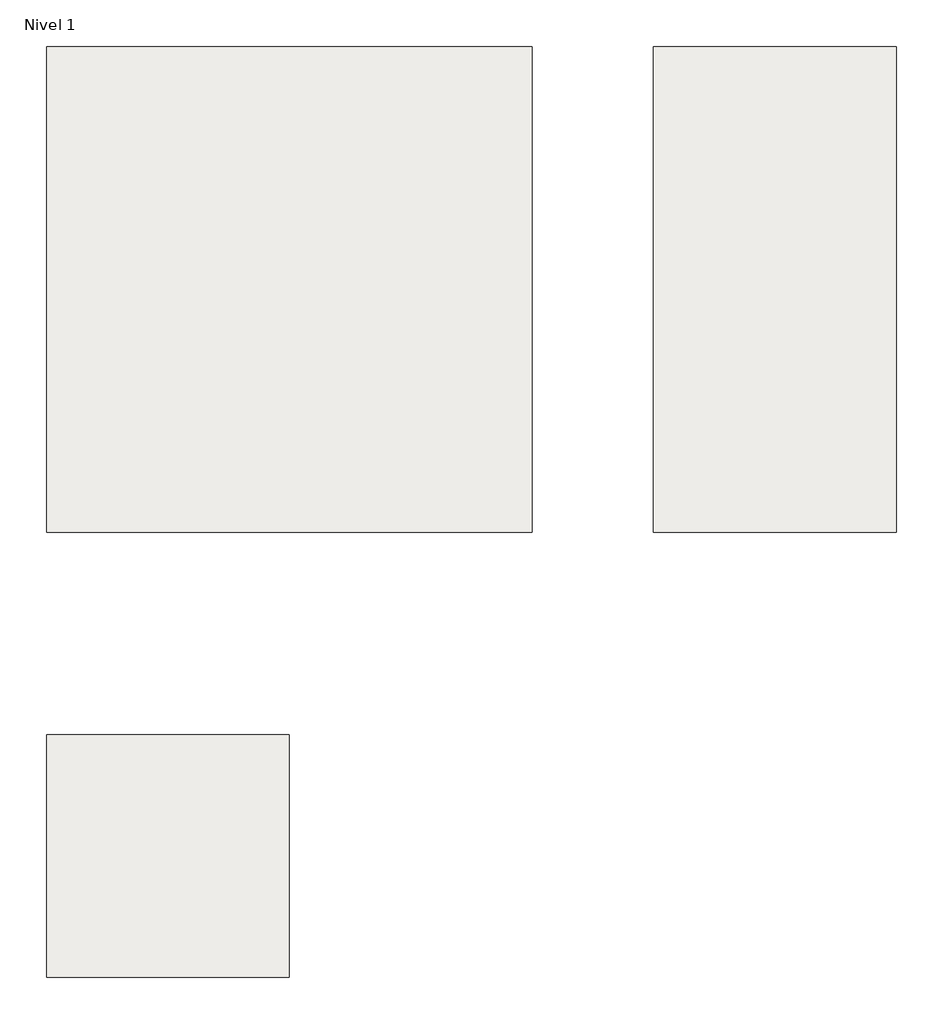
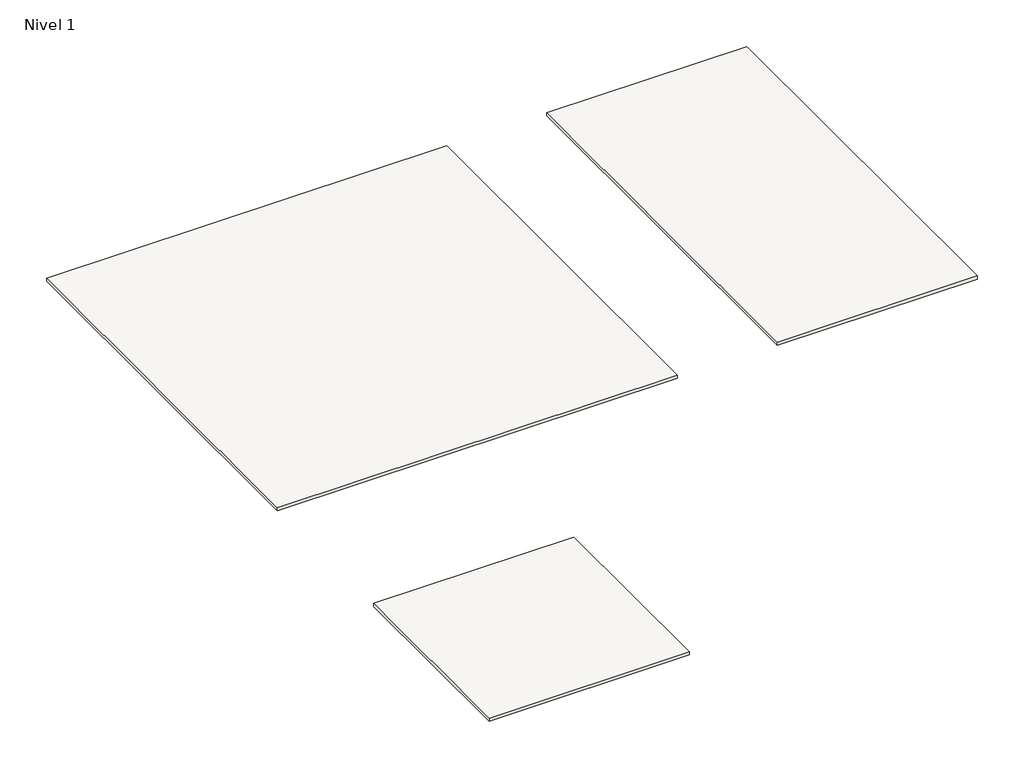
# One storey: 3 slabs.
"""IFC4 building model written with IfcOpenShell, lengths in millimetres."""

from ifc_helpers import new_model, si_unit, frame, origin, place, context, project, spatial, polyline, outline, extrude, element, save

model = new_model("IFC4")

# Units and contexts
model_context = context("Model", 3, world=origin())
ifc_project = project(units=[si_unit("LENGTHUNIT", "METRE", prefix="MILLI")], contexts=[model_context])

# Site, building, storey
site = spatial("IfcSite", under=ifc_project)
building = spatial("IfcBuilding", under=site)
storey = spatial("IfcBuildingStorey", under=building, Name="Nivel 1", Elevation=0.0)

# Slabs
placement = place(None, origin())
element("IfcSlab", 1, ObjectType="Blue Roma 120X120 Rec", at=placement, inside=storey, context=model_context, shape_type="SweptSolid", body=[
    extrude(outline(polyline([(0.0, 1200.0), (1200.0, 1200.0), (1200.0, 0.0), (0.0, 0.0), (0.0, 1200.0)])), frame((0.0, 0.0, -10.0), z_axis=(0.0, 0.0, 1.0), x_axis=(1.0, 0.0, 0.0)), (0.0, 0.0, 1.0), 10.0),
])
element("IfcSlab", 2, ObjectType="Blue Roma 60X120 Rec", at=placement, inside=storey, context=model_context, shape_type="SweptSolid", body=[
    extrude(outline(polyline([(1500.0, 1200.0), (2100.0, 1200.0), (2100.0, 0.0), (1500.0, 0.0), (1500.0, 1200.0)])), frame((0.0, 0.0, -10.0), z_axis=(0.0, 0.0, 1.0), x_axis=(1.0, 0.0, 0.0)), (0.0, 0.0, 1.0), 10.0),
])
element("IfcSlab", 3, ObjectType="Blue Roma 60X60 Rec", at=placement, inside=storey, context=model_context, shape_type="SweptSolid", body=[
    extrude(outline(polyline([(0.0, -500.0), (600.0, -500.0), (600.0, -1100.0), (0.0, -1100.0), (0.0, -500.0)])), frame((0.0, 0.0, -10.0), z_axis=(0.0, 0.0, 1.0), x_axis=(1.0, 0.0, 0.0)), (0.0, 0.0, 1.0), 10.0),
])

save(model, "model.ifc")
